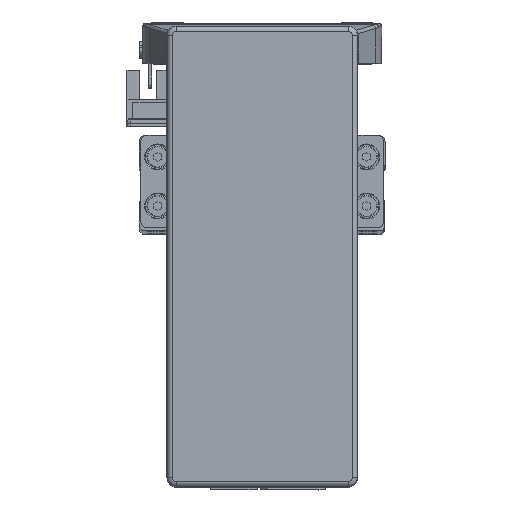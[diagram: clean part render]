
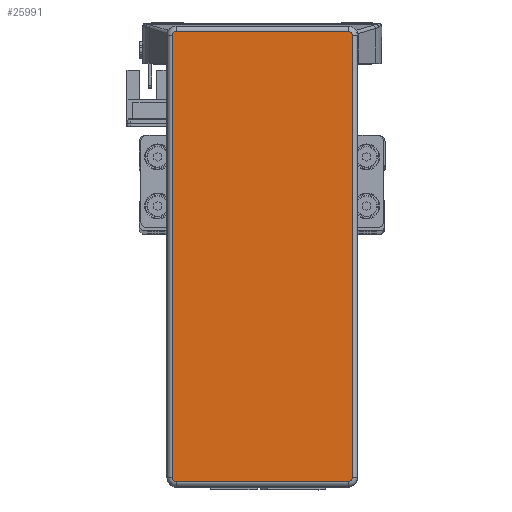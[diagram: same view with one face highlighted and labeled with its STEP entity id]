
A CAD part, top view. The second image highlights one B-rep face of the part: STEP entity #25991.
In plain terms, the highlighted planar face has unit normal (0, 0, 1) as drawn and (0, 0, -1) by its records, which use the part's own axes.
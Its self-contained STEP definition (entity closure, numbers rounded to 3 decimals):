
#12938 = CARTESIAN_POINT ( 'NONE',  ( 71.995, 29.295, -32.2 ) ) ;
#12942 = CARTESIAN_POINT ( 'NONE',  ( -73.295, -27.995, -32.2 ) ) ;
#13845 = CARTESIAN_POINT ( 'NONE',  ( 73.295, 27.995, -32.2 ) ) ;
#13884 = CARTESIAN_POINT ( 'NONE',  ( -71.995, -29.295, -32.2 ) ) ;
#13890 = CARTESIAN_POINT ( 'NONE',  ( 73.295, -27.995, -32.2 ) ) ;
#13910 = CARTESIAN_POINT ( 'NONE',  ( -73.295, 27.995, -32.2 ) ) ;
#13913 = CARTESIAN_POINT ( 'NONE',  ( 71.995, -29.295, -32.2 ) ) ;
#13922 = CARTESIAN_POINT ( 'NONE',  ( -71.995, 29.295, -32.2 ) ) ;
#17064 = VERTEX_POINT ( 'NONE', #13845 ) ;
#17067 = VERTEX_POINT ( 'NONE', #13890 ) ;
#17123 = VERTEX_POINT ( 'NONE', #13884 ) ;
#17137 = VERTEX_POINT ( 'NONE', #13922 ) ;
#17139 = VERTEX_POINT ( 'NONE', #13910 ) ;
#17142 = VERTEX_POINT ( 'NONE', #13913 ) ;
#17164 = VERTEX_POINT ( 'NONE', #12938 ) ;
#17179 = VERTEX_POINT ( 'NONE', #12942 ) ;
#20725 = AXIS2_PLACEMENT_3D ( 'NONE', #22638, #22640, #22643 ) ;
#22114 = AXIS2_PLACEMENT_3D ( 'NONE', #36140, #36147, #36155 ) ;
#22124 = AXIS2_PLACEMENT_3D ( 'NONE', #36189, #36188, #36176 ) ;
#22143 = AXIS2_PLACEMENT_3D ( 'NONE', #36379, #36345, #36364 ) ;
#22206 = AXIS2_PLACEMENT_3D ( 'NONE', #36438, #36470, #36456 ) ;
#22637 = PLANE ( 'NONE',  #20725 ) ;
#22638 = CARTESIAN_POINT ( 'NONE',  ( 71.995, -27.995, -32.2 ) ) ;
#22640 = DIRECTION ( 'NONE',  ( 0., 0., 1. ) ) ;
#22643 = DIRECTION ( 'NONE',  ( 1., 0., 0. ) ) ;
#23615 = FACE_OUTER_BOUND ( 'NONE', #24643, .T. ) ;
#24643 = EDGE_LOOP ( 'NONE', ( #36915, #36900, #36890, #36950, #36912, #36893, #36897, #36982 ) ) ;
#25991 = ADVANCED_FACE ( 'NONE', ( #23615 ), #22637, .F. ) ;
#35217 = CIRCLE ( 'NONE', #22124, 1.3 ) ;
#35227 = LINE ( 'NONE', #36211, #35268 ) ;
#35235 = CIRCLE ( 'NONE', #22114, 1.3 ) ;
#35249 = CIRCLE ( 'NONE', #22143, 1.3 ) ;
#35259 = LINE ( 'NONE', #36153, #35262 ) ;
#35262 = VECTOR ( 'NONE', #36154, 1000. ) ;
#35268 = VECTOR ( 'NONE', #36206, 1000. ) ;
#35293 = LINE ( 'NONE', #36512, #35316 ) ;
#35304 = CIRCLE ( 'NONE', #22206, 1.3 ) ;
#35311 = LINE ( 'NONE', #36488, #35315 ) ;
#35315 = VECTOR ( 'NONE', #36501, 1000. ) ;
#35316 = VECTOR ( 'NONE', #36511, 1000. ) ;
#36140 = CARTESIAN_POINT ( 'NONE',  ( 71.995, 27.995, -32.2 ) ) ;
#36147 = DIRECTION ( 'NONE',  ( 0., 0., -1. ) ) ;
#36153 = CARTESIAN_POINT ( 'NONE',  ( -73.295, -27.995, -32.2 ) ) ;
#36154 = DIRECTION ( 'NONE',  ( 0., 1., 0. ) ) ;
#36155 = DIRECTION ( 'NONE',  ( 1., 0., 0. ) ) ;
#36176 = DIRECTION ( 'NONE',  ( 1., 0., 0. ) ) ;
#36188 = DIRECTION ( 'NONE',  ( 0., 0., -1. ) ) ;
#36189 = CARTESIAN_POINT ( 'NONE',  ( 71.995, -27.995, -32.2 ) ) ;
#36206 = DIRECTION ( 'NONE',  ( 0., -1., 0. ) ) ;
#36211 = CARTESIAN_POINT ( 'NONE',  ( 73.295, -27.995, -32.2 ) ) ;
#36345 = DIRECTION ( 'NONE',  ( 0., 0., -1. ) ) ;
#36364 = DIRECTION ( 'NONE',  ( 1., 0., 0. ) ) ;
#36379 = CARTESIAN_POINT ( 'NONE',  ( -71.995, -27.995, -32.2 ) ) ;
#36438 = CARTESIAN_POINT ( 'NONE',  ( -71.995, 27.995, -32.2 ) ) ;
#36456 = DIRECTION ( 'NONE',  ( 1., 0., 0. ) ) ;
#36470 = DIRECTION ( 'NONE',  ( 0., 0., -1. ) ) ;
#36488 = CARTESIAN_POINT ( 'NONE',  ( 71.995, -29.295, -32.2 ) ) ;
#36501 = DIRECTION ( 'NONE',  ( -1., 0., 0. ) ) ;
#36511 = DIRECTION ( 'NONE',  ( 1., 0., 0. ) ) ;
#36512 = CARTESIAN_POINT ( 'NONE',  ( 71.995, 29.295, -32.2 ) ) ;
#36890 = ORIENTED_EDGE ( 'NONE', *, *, #44665, .T. ) ;
#36893 = ORIENTED_EDGE ( 'NONE', *, *, #44655, .T. ) ;
#36897 = ORIENTED_EDGE ( 'NONE', *, *, #44664, .T. ) ;
#36900 = ORIENTED_EDGE ( 'NONE', *, *, #44615, .T. ) ;
#36912 = ORIENTED_EDGE ( 'NONE', *, *, #44613, .T. ) ;
#36915 = ORIENTED_EDGE ( 'NONE', *, *, #44622, .T. ) ;
#36950 = ORIENTED_EDGE ( 'NONE', *, *, #44635, .T. ) ;
#36982 = ORIENTED_EDGE ( 'NONE', *, *, #44611, .T. ) ;
#44611 = EDGE_CURVE ( 'NONE', #17164, #17064, #35235, .T. ) ;
#44613 = EDGE_CURVE ( 'NONE', #17179, #17139, #35259, .T. ) ;
#44615 = EDGE_CURVE ( 'NONE', #17067, #17142, #35217, .T. ) ;
#44622 = EDGE_CURVE ( 'NONE', #17064, #17067, #35227, .T. ) ;
#44635 = EDGE_CURVE ( 'NONE', #17123, #17179, #35249, .T. ) ;
#44655 = EDGE_CURVE ( 'NONE', #17139, #17137, #35304, .T. ) ;
#44664 = EDGE_CURVE ( 'NONE', #17137, #17164, #35293, .T. ) ;
#44665 = EDGE_CURVE ( 'NONE', #17142, #17123, #35311, .T. ) ;
